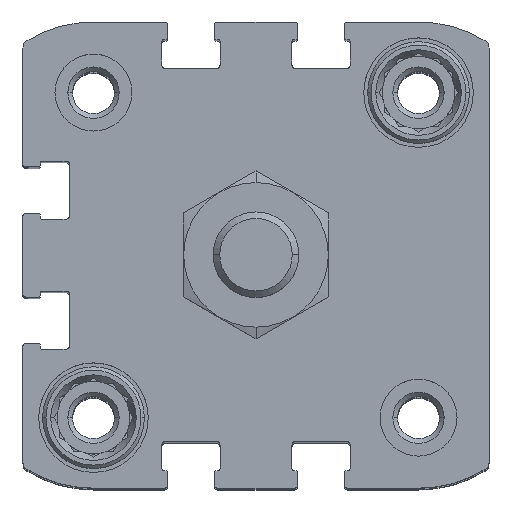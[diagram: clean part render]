
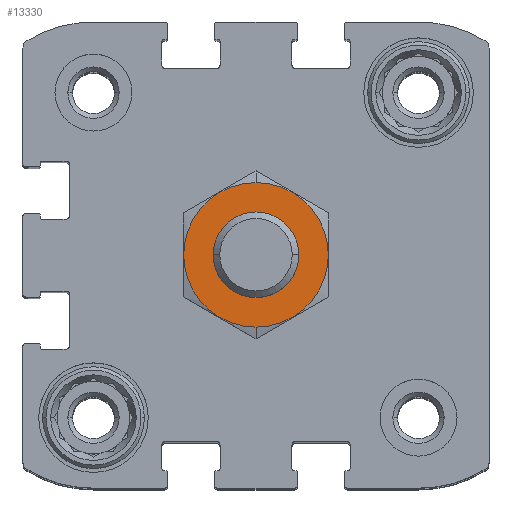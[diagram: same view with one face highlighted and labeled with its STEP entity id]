
A CAD part, top view. The second image highlights one B-rep face of the part: STEP entity #13330.
In plain terms, the highlighted planar face has unit normal (0, 0, 1).
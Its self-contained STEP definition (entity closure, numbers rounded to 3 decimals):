
#470 = AXIS2_PLACEMENT_3D ( 'NONE', #15777, #10238, #10421 ) ;
#487 = AXIS2_PLACEMENT_3D ( 'NONE', #13015, #9157, #9975 ) ;
#663 = EDGE_CURVE ( 'NONE', #4217, #16335, #3372, .T. ) ;
#691 = DIRECTION ( 'NONE',  ( 0., 0., -1. ) ) ;
#702 = DIRECTION ( 'NONE',  ( 0., 1., 0. ) ) ;
#979 = VERTEX_POINT ( 'NONE', #5619 ) ;
#1558 = CARTESIAN_POINT ( 'NONE',  ( 0., -8.45, 15.8 ) ) ;
#1571 = DIRECTION ( 'NONE',  ( 0., 0., -1. ) ) ;
#1645 = AXIS2_PLACEMENT_3D ( 'NONE', #15182, #691, #11469 ) ;
#2026 = DIRECTION ( 'NONE',  ( 0., 0., -1. ) ) ;
#2894 = PLANE ( 'NONE',  #11153 ) ;
#3003 = CIRCLE ( 'NONE', #487, 5. ) ;
#3372 = CIRCLE ( 'NONE', #11760, 8.45 ) ;
#3747 = EDGE_LOOP ( 'NONE', ( #16557, #6684 ) ) ;
#4217 = VERTEX_POINT ( 'NONE', #1558 ) ;
#4284 = EDGE_CURVE ( 'NONE', #17308, #979, #3003, .T. ) ;
#5619 = CARTESIAN_POINT ( 'NONE',  ( 0., 5., 15.8 ) ) ;
#6021 = EDGE_LOOP ( 'NONE', ( #8759, #16253 ) ) ;
#6635 = EDGE_CURVE ( 'NONE', #16335, #4217, #6975, .T. ) ;
#6684 = ORIENTED_EDGE ( 'NONE', *, *, #12133, .T. ) ;
#6934 = CIRCLE ( 'NONE', #470, 5. ) ;
#6975 = CIRCLE ( 'NONE', #1645, 8.45 ) ;
#8437 = CARTESIAN_POINT ( 'NONE',  ( 0., 0., 15.8 ) ) ;
#8759 = ORIENTED_EDGE ( 'NONE', *, *, #6635, .F. ) ;
#9157 = DIRECTION ( 'NONE',  ( 0., 0., -1. ) ) ;
#9565 = FACE_OUTER_BOUND ( 'NONE', #6021, .T. ) ;
#9975 = DIRECTION ( 'NONE',  ( 0., 1., 0. ) ) ;
#10238 = DIRECTION ( 'NONE',  ( 0., 0., -1. ) ) ;
#10421 = DIRECTION ( 'NONE',  ( 0., 1., 0. ) ) ;
#11153 = AXIS2_PLACEMENT_3D ( 'NONE', #16500, #1571, #14905 ) ;
#11216 = FACE_BOUND ( 'NONE', #3747, .T. ) ;
#11469 = DIRECTION ( 'NONE',  ( 0., 1., 0. ) ) ;
#11760 = AXIS2_PLACEMENT_3D ( 'NONE', #8437, #2026, #702 ) ;
#12133 = EDGE_CURVE ( 'NONE', #979, #17308, #6934, .T. ) ;
#12863 = CARTESIAN_POINT ( 'NONE',  ( 0., -5., 15.8 ) ) ;
#13015 = CARTESIAN_POINT ( 'NONE',  ( 0., 0., 15.8 ) ) ;
#13297 = CARTESIAN_POINT ( 'NONE',  ( 0., 8.45, 15.8 ) ) ;
#13330 = ADVANCED_FACE ( 'NONE', ( #9565, #11216 ), #2894, .F. ) ;
#14905 = DIRECTION ( 'NONE',  ( 0., 1., 0. ) ) ;
#15182 = CARTESIAN_POINT ( 'NONE',  ( 0., 0., 15.8 ) ) ;
#15777 = CARTESIAN_POINT ( 'NONE',  ( 0., 0., 15.8 ) ) ;
#16253 = ORIENTED_EDGE ( 'NONE', *, *, #663, .F. ) ;
#16335 = VERTEX_POINT ( 'NONE', #13297 ) ;
#16500 = CARTESIAN_POINT ( 'NONE',  ( 0., 0., 15.8 ) ) ;
#16557 = ORIENTED_EDGE ( 'NONE', *, *, #4284, .T. ) ;
#17308 = VERTEX_POINT ( 'NONE', #12863 ) ;
